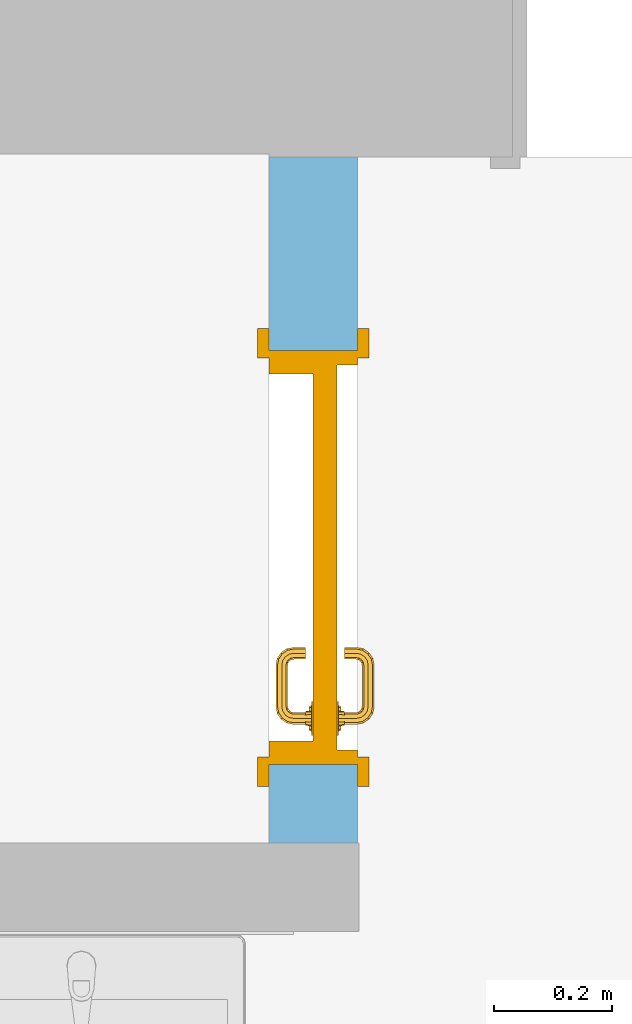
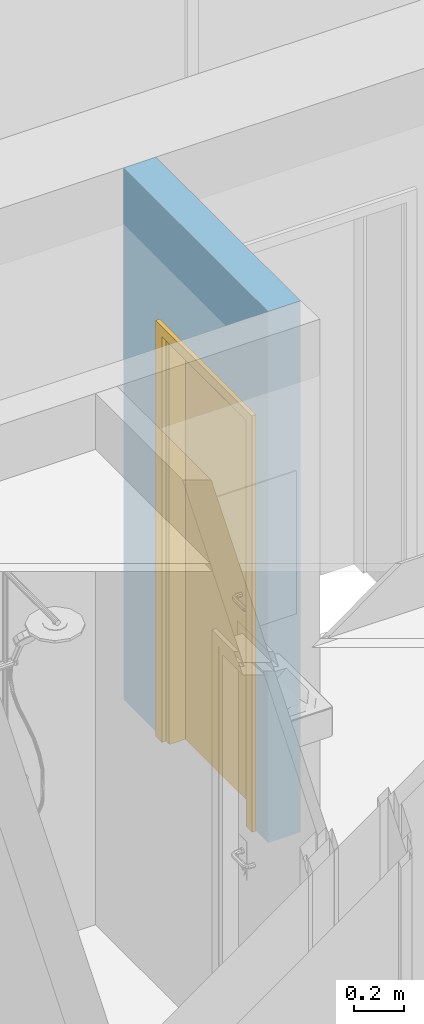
# One storey, part 51 of 127: 1 door, 1 opening, plus 1 element that does not belong to this part.
"""IFC2X3 building model written with IfcOpenShell, lengths in millimetres."""

from ifc_helpers import new_model, entity, si_unit, converted_unit, derived_unit, money_unit, direction, frame, origin_with_axes, origin_2d_with_axis, place, context, subcontext, project, spatial, polyline, rectangle, outline, extrude, open_shell, faceted_brep, surface_model, material, layer, layer_set, layer_usage, type_object, element, fill, save


model = new_model("IFC2X3")

# Units and contexts
model_context = context("Model", 3, precision=1e-05, world=origin_with_axes(), true_north=direction((0.0, 1.0)))
body_context = subcontext(model_context, "Body", "Model", "MODEL_VIEW")
ifc_project = project(units=[si_unit("LENGTHUNIT", "METRE", prefix="MILLI"), si_unit("AREAUNIT", "SQUARE_METRE"), si_unit("VOLUMEUNIT", "CUBIC_METRE"), converted_unit("PLANEANGLEUNIT", "DEGREE", entity("IfcPlaneAngleMeasure", 0.0174532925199), si_unit("PLANEANGLEUNIT", "RADIAN"), dimensions=[0, 0, 0, 0, 0, 0, 0]), si_unit("SOLIDANGLEUNIT", "STERADIAN"), money_unit("EUR"), converted_unit("TIMEUNIT", "Year", entity("IfcTimeMeasure", 31556926.0), si_unit("TIMEUNIT", "SECOND"), dimensions=[0, 0, 1, 0, 0, 0, 0]), si_unit("MASSUNIT", "GRAM", prefix="KILO"), si_unit("THERMODYNAMICTEMPERATUREUNIT", "DEGREE_CELSIUS"), si_unit("LUMINOUSINTENSITYUNIT", "LUMEN"), si_unit("ENERGYUNIT", "JOULE", prefix="MEGA"), derived_unit("THERMALCONDUCTANCEUNIT", [(si_unit("POWERUNIT", "WATT"), 1), (si_unit("LENGTHUNIT", "METRE"), -1), (si_unit("THERMODYNAMICTEMPERATUREUNIT", "KELVIN"), -1)]), derived_unit("SPECIFICHEATCAPACITYUNIT", [(si_unit("ENERGYUNIT", "JOULE"), 1), (si_unit("MASSUNIT", "GRAM", prefix="KILO"), -1), (si_unit("THERMODYNAMICTEMPERATUREUNIT", "KELVIN"), -1)]), derived_unit("MASSDENSITYUNIT", [(si_unit("MASSUNIT", "GRAM", prefix="KILO"), 1), (si_unit("VOLUMEUNIT", "CUBIC_METRE"), -1)])], contexts=[model_context])

# Site, building, storey
site_placement = place(None, origin_with_axes())
site = spatial("IfcSite", under=ifc_project, at=site_placement, Name="Site", CompositionType="ELEMENT")
building_placement = place(site_placement, origin_with_axes())
building = spatial("IfcBuilding", under=site, at=building_placement, Name="Building", CompositionType="ELEMENT")
storey_placement = place(building_placement, origin_with_axes())
storey = spatial("IfcBuildingStorey", under=building, at=storey_placement, Name="1 KORRUS", CompositionType="ELEMENT", Elevation=0.0)

# Wall, opening, door
ifc_material = material(Name="Kivi -Ol.Olev Konstruktsioon")
ifc_layer = layer(ifc_material, 150.0, ventilated="UNKNOWN")
ifc_layer_set = layer_set([ifc_layer], Name="ol.olev ss 150")
ifc_layer_usage = layer_usage(ifc_layer_set, "AXIS2", "POSITIVE", 0.0)
wall_type = type_object("IfcWallType", Name="SW - 036", PredefinedType="NOTDEFINED")
wall_placement = place(storey_placement, frame((70884.6509864, 41003.0649281, 0.0), z_axis=(0.0, 0.0, 1.0), x_axis=(0.0, -1.0, 0.0)))
wall = element("IfcWallStandardCase", 1, at=wall_placement, inside=storey, type_object=wall_type, material=ifc_layer_usage, Name="ol.olev ss 150", context=body_context, shape_type="SweptSolid", body=[
    extrude(outline(polyline([(420.0, 0.0), (1579.00000261, 0.0), (1579.00000261, 150.0), (420.0, 150.0), (420.0, 0.0)])), origin_with_axes(), (0.0, 0.0, 1.0), 2600.0),
])
opening_placement = place(wall_placement, frame((1096.64321716, 0.0, 0.0), z_axis=(0.0, 0.0, 1.0), x_axis=(1.0, 0.0, 0.0)))
opening = element("IfcOpeningElement", 2, at=opening_placement, cuts=wall, Name="Siseuks * Door 22", context=body_context, shape_type="SweptSolid", body=[
    extrude(rectangle(XDim=700.000000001, YDim=2000.0, at=origin_2d_with_axis()), frame((0.0, 150.0, 1000.0), z_axis=(0.0, 1.0, 0.0), x_axis=(-1.0, 0.0, 0.0)), (0.0, 0.0, -1.0), 450.0),
    extrude(rectangle(XDim=773.999999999, YDim=2037.0, at=origin_2d_with_axis()), frame((0.0, 150.0, 1018.5), z_axis=(0.0, 1.0, 0.0), x_axis=(-1.0, 0.0, 0.0)), (0.0, 0.0, 1.0), 150.0),
    extrude(rectangle(XDim=773.999999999, YDim=2037.0, at=origin_2d_with_axis()), frame((0.0, 0.0, 1018.5), z_axis=(0.0, -1.0, 0.0), x_axis=(-1.0, 0.0, 0.0)), (0.0, 0.0, 1.0), 150.0),
])
door_style = type_object("IfcDoorStyle", Name="SU-B126A   700×2\xa0000", ConstructionType="NOTDEFINED", OperationType="SINGLE_SWING_LEFT", ParameterTakesPrecedence=False, Sizeable=False)
door_placement = place(opening_placement, frame((-350.0, 0.0, 0.0), z_axis=(0.0, 0.0, 1.0), x_axis=(1.0, 0.0, 0.0)))
door = element("IfcDoor", 3, at=door_placement, inside=storey, type_object=door_style, Name="Siseuks * Door 22", OverallHeight=2000.0, OverallWidth=700.0, context=body_context, shape_type="SurfaceModel", body=[
    faceted_brep([(700.000000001, 115.0, 0.0), (675.0, 115.0, 0.0), (675.0, 150.0, 0.0), (700.000000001, 150.0, 0.0), (700.000000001, 115.0, 2000.0), (675.0, 115.0, 1975.0), (675.0, 150.0, 1975.0), (700.000000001, 150.0, 2000.0)], [[[0, 1, 2, 3]], [[0, 4, 5, 1]], [[1, 5, 6, 2]], [[3, 2, 6, 7]], [[4, 0, 3, 7]], [[5, 4, 7, 6]]]),
    faceted_brep([(0.0, 115.0, 2000.0), (25.0000000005, 115.0, 1975.0), (25.0000000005, 150.0, 1975.0), (0.0, 150.0, 2000.0), (0.0, 115.0, 0.0), (25.0000000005, 115.0, 0.0), (25.0000000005, 150.0, 0.0), (0.0, 150.0, 0.0)], [[[0, 1, 2, 3]], [[0, 4, 5, 1]], [[1, 5, 6, 2]], [[3, 2, 6, 7]], [[4, 0, 3, 7]], [[5, 4, 7, 6]]]),
    faceted_brep([(675.0, 115.0, 1975.0), (25.0000000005, 115.0, 1975.0), (25.0000000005, 150.0, 1975.0), (675.0, 150.0, 1975.0), (700.000000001, 115.0, 2000.0), (0.0, 115.0, 2000.0), (0.0, 150.0, 2000.0), (700.000000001, 150.0, 2000.0)], [[[0, 1, 2, 3]], [[0, 4, 5, 1]], [[1, 5, 6, 2]], [[3, 2, 6, 7]], [[4, 0, 3, 7]], [[5, 4, 7, 6]]]),
    faceted_brep([(737.0, 169.0, 0.0), (737.0, 150.0, 0.0), (687.000000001, 150.0, 0.0), (687.000000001, 169.0, 0.0), (737.0, 169.0, 2037.0), (737.0, 150.0, 2037.0), (687.000000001, 150.0, 1987.0), (687.000000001, 169.0, 1987.0)], [[[0, 1, 2, 3]], [[4, 5, 1, 0]], [[1, 5, 6, 2]], [[3, 2, 6, 7]], [[0, 3, 7, 4]], [[7, 6, 5, 4]]]),
    faceted_brep([(-36.9999999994, 169.0, 2037.0), (-36.9999999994, 150.0, 2037.0), (12.9999999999, 150.0, 1987.0), (12.9999999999, 169.0, 1987.0), (-36.9999999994, 169.0, 0.0), (-36.9999999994, 150.0, 0.0), (12.9999999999, 150.0, 0.0), (12.9999999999, 169.0, 0.0)], [[[0, 1, 2, 3]], [[4, 5, 1, 0]], [[1, 5, 6, 2]], [[3, 2, 6, 7]], [[0, 3, 7, 4]], [[7, 6, 5, 4]]]),
    faceted_brep([(737.0, 169.0, 2037.0), (737.0, 150.0, 2037.0), (687.000000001, 150.0, 1987.0), (687.000000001, 169.0, 1987.0), (-36.9999999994, 169.0, 2037.0), (-36.9999999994, 150.0, 2037.0), (12.9999999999, 150.0, 1987.0), (12.9999999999, 169.0, 1987.0)], [[[0, 1, 2, 3]], [[4, 5, 1, 0]], [[1, 5, 6, 2]], [[3, 2, 6, 7]], [[0, 3, 7, 4]], [[7, 6, 5, 4]]]),
    faceted_brep([(737.0, -19.0, 0.0), (687.000000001, -19.0, 0.0), (687.000000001, 0.0, 0.0), (737.0, 0.0, 0.0), (737.0, -19.0, 2037.0), (687.000000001, -19.0, 1987.0), (687.000000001, 0.0, 1987.0), (737.0, 0.0, 2037.0)], [[[0, 1, 2, 3]], [[0, 4, 5, 1]], [[1, 5, 6, 2]], [[3, 2, 6, 7]], [[4, 0, 3, 7]], [[5, 4, 7, 6]]]),
    faceted_brep([(-36.9999999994, -19.0, 2037.0), (12.9999999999, -19.0, 1987.0), (12.9999999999, 0.0, 1987.0), (-36.9999999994, 0.0, 2037.0), (-36.9999999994, -19.0, 0.0), (12.9999999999, -19.0, 0.0), (12.9999999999, 0.0, 0.0), (-36.9999999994, 0.0, 0.0)], [[[0, 1, 2, 3]], [[0, 4, 5, 1]], [[1, 5, 6, 2]], [[3, 2, 6, 7]], [[4, 0, 3, 7]], [[5, 4, 7, 6]]]),
    faceted_brep([(737.0, -19.0, 2037.0), (687.000000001, -19.0, 1987.0), (687.000000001, 0.0, 1987.0), (737.0, 0.0, 2037.0), (-36.9999999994, -19.0, 2037.0), (12.9999999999, -19.0, 1987.0), (12.9999999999, 0.0, 1987.0), (-36.9999999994, 0.0, 2037.0)], [[[0, 1, 2, 3]], [[0, 4, 5, 1]], [[1, 5, 6, 2]], [[3, 2, 6, 7]], [[4, 0, 3, 7]], [[5, 4, 7, 6]]]),
    faceted_brep([(660.000000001, 75.0, 0.0), (660.000000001, 0.0, 0.0), (660.000000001, 0.0, 1960.0), (660.000000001, 75.0, 1960.0), (672.0, 75.0, 0.0), (672.0, 115.0, 0.0), (700.000000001, 115.0, 0.0), (700.000000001, 0.0, 0.0), (700.000000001, 0.0, 1960.0), (672.0, 75.0, 1960.0), (700.000000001, 115.0, 1960.0), (672.0, 115.0, 1960.0)], [[[0, 1, 2, 3]], [[4, 5, 6, 7, 1, 0]], [[1, 7, 8, 2]], [[9, 3, 2, 8, 10, 11]], [[9, 4, 0, 3]], [[11, 5, 4, 9]], [[11, 10, 6, 5]], [[6, 10, 8, 7]]]),
    faceted_brep([(28.0000000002, 75.0, 1960.0), (28.0000000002, 115.0, 1960.0), (0.0, 115.0, 1960.0), (0.0, 0.0, 1960.0), (40.0, 0.0, 1960.0), (40.0, 75.0, 1960.0), (28.0000000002, 75.0, 0.0), (28.0000000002, 115.0, 0.0), (0.0, 115.0, 0.0), (0.0, 0.0, 0.0), (40.0, 0.0, 0.0), (40.0, 75.0, 0.0)], [[[0, 1, 2, 3, 4, 5]], [[0, 6, 7, 1]], [[7, 8, 2, 1]], [[2, 8, 9, 3]], [[3, 9, 10, 4]], [[5, 4, 10, 11]], [[5, 11, 6, 0]], [[6, 11, 10, 9, 8, 7]]]),
    faceted_brep([(672.0, 115.0, 1972.0), (28.0000000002, 115.0, 1972.0), (28.0000000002, 115.0, 1960.0), (0.0, 115.0, 1960.0), (0.0, 115.0, 2000.0), (700.000000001, 115.0, 2000.0), (700.000000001, 115.0, 1960.0), (672.0, 115.0, 1960.0), (672.0, 75.0, 1972.0), (28.0000000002, 75.0, 1972.0), (28.0000000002, 75.0, 1960.0), (40.0, 75.0, 1960.0), (40.0, 0.0, 1960.0), (0.0, 0.0, 1960.0), (0.0, 0.0, 2000.0), (700.000000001, 0.0, 2000.0), (700.000000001, 0.0, 1960.0), (672.0, 75.0, 1960.0), (660.000000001, 0.0, 1960.0), (660.000000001, 75.0, 1960.0)], [[[0, 1, 2, 3, 4, 5, 6, 7]], [[0, 8, 9, 1]], [[1, 9, 10, 2]], [[10, 11, 12, 13, 3, 2]], [[4, 3, 13, 14]], [[5, 4, 14, 15]], [[6, 5, 15, 16]], [[17, 7, 6, 16, 18, 19]], [[7, 17, 8, 0]], [[10, 9, 8, 17, 19, 11]], [[19, 18, 12, 11]], [[12, 18, 16, 15, 14, 13]]]),
    faceted_brep([(650.500000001, 75.0, 1060.0), (593.5, 75.0, 1060.0), (593.5, 72.0, 1060.0), (650.500000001, 72.0, 1060.0), (650.500000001, 75.0, 870.0), (593.5, 75.0, 870.0), (593.5, 72.0, 870.0), (650.500000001, 72.0, 870.0)], [[[0, 1, 2, 3]], [[0, 4, 5, 1]], [[1, 5, 6, 2]], [[3, 2, 6, 7]], [[4, 0, 3, 7]], [[5, 4, 7, 6]]]),
    surface_model("IfcShellBasedSurfaceModel", [(612.0, 62.0, 1000.0), (614.928932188, 62.0, 992.928932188), (614.928932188, 42.696439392, 992.928932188), (612.0, 42.9849140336, 1000.0), (622.0, 62.0, 990.0), (622.0, 42.0, 990.0), (613.816790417, 37.1053251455, 992.928932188), (611.057796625, 38.2481377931, 1000.0), (614.928932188, 62.0, 1007.07106781), (614.928932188, 42.696439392, 1007.07106781), (629.071067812, 62.0, 992.928932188), (629.071067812, 41.303560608, 992.928932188), (620.477590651, 34.3463313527, 990.0), (611.044179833, 32.9558201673, 992.928932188), (608.932537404, 35.0674625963, 1000.0), (613.816790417, 37.1053251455, 1007.07106781), (622.0, 62.0, 1010.0), (622.0, 42.0, 1010.0), (632.000000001, 62.0, 1000.0), (632.000000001, 41.0150859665, 1000.0), (627.138390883, 31.5873375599, 992.928932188), (616.142135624, 27.8578643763, 990.0), (606.894674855, 30.1832095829, 992.928932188), (605.751862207, 32.9422033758, 1000.0), (611.044179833, 32.9558201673, 1007.07106781), (620.477590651, 34.3463313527, 1010.0), (629.071067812, 62.0, 1007.07106781), (629.071067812, 41.303560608, 1007.07106781), (629.897384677, 30.4445249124, 1000.0), (621.240091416, 22.7599085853, 992.928932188), (609.653668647, 23.5224093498, 990.0), (601.303560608, 29.0710678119, 992.928932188), (601.015085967, 32.0, 1000.0), (606.894674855, 30.1832095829, 1007.07106781), (616.142135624, 27.8578643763, 1010.0), (627.138390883, 31.5873375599, 1007.07106781), (623.351733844, 20.6482661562, 1000.0), (612.412662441, 16.8616091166, 992.928932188), (602.000000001, 22.0, 990.0), (532.696439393, 29.0710678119, 992.928932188), (532.984914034, 32.0, 1000.0), (601.303560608, 29.0710678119, 1007.07106781), (609.653668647, 23.5224093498, 1010.0), (621.240091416, 22.7599085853, 1007.07106781), (613.555475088, 14.1026153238, 1000.0), (602.696439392, 14.9289321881, 992.928932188), (532.0, 22.0, 990.0), (527.105325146, 30.1832095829, 992.928932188), (528.248137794, 32.9422033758, 1000.0), (532.696439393, 29.0710678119, 1007.07106781), (602.000000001, 22.0, 1010.0), (612.412662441, 16.8616091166, 1007.07106781), (602.984914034, 12.0000000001, 1000.0), (531.303560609, 14.9289321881, 992.928932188), (524.346331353, 23.5224093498, 990.0), (522.955820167, 32.9558201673, 992.928932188), (525.067462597, 35.0674625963, 1000.0), (527.105325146, 30.1832095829, 1007.07106781), (532.0, 22.0, 1010.0), (602.696439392, 14.9289321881, 1007.07106781), (531.015085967, 12.0000000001, 1000.0), (521.58733756, 16.8616091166, 992.928932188), (517.857864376, 27.8578643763, 990.0), (520.183209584, 37.1053251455, 992.928932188), (522.942203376, 38.2481377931, 1000.0), (522.955820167, 32.9558201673, 1007.07106781), (524.346331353, 23.5224093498, 1010.0), (531.303560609, 14.9289321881, 1007.07106781), (520.444524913, 14.1026153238, 1000.0), (512.759908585, 22.7599085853, 992.928932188), (513.52240935, 34.3463313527, 990.0), (519.071067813, 42.696439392, 992.928932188), (522.0, 42.9849140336, 1000.0), (520.183209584, 37.1053251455, 1007.07106781), (517.857864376, 27.8578643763, 1010.0), (521.58733756, 16.8616091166, 1007.07106781), (510.648266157, 20.6482661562, 1000.0), (506.861609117, 31.5873375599, 992.928932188), (512.000000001, 42.0, 990.0), (519.071067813, 62.0, 992.928932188), (522.0, 62.0, 1000.0), (519.071067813, 42.696439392, 1007.07106781), (513.52240935, 34.3463313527, 1010.0), (512.759908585, 22.7599085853, 1007.07106781), (504.102615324, 30.4445249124, 1000.0), (504.928932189, 41.303560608, 992.928932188), (512.000000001, 62.0, 990.0), (504.928932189, 62.0, 992.928932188), (502.0, 62.0, 1000.0), (504.928932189, 62.0, 1007.07106781), (512.000000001, 62.0, 1010.0), (519.071067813, 62.0, 1007.07106781), (512.000000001, 42.0, 1010.0), (506.861609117, 31.5873375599, 1007.07106781), (502.0, 41.0150859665, 1000.0), (504.928932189, 41.303560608, 1007.07106781)], [open_shell([[[0, 1, 2, 3]], [[1, 4, 5, 2]], [[3, 2, 6, 7]], [[8, 0, 3, 9]], [[4, 10, 11, 5]], [[2, 5, 12, 6]], [[7, 6, 13, 14]], [[9, 3, 7, 15]], [[16, 8, 9, 17]], [[10, 18, 19, 11]], [[5, 11, 20, 12]], [[6, 12, 21, 13]], [[14, 13, 22, 23]], [[15, 7, 14, 24]], [[17, 9, 15, 25]], [[26, 16, 17, 27]], [[18, 26, 27, 19]], [[11, 19, 28, 20]], [[12, 20, 29, 21]], [[13, 21, 30, 22]], [[23, 22, 31, 32]], [[24, 14, 23, 33]], [[25, 15, 24, 34]], [[27, 17, 25, 35]], [[19, 27, 35, 28]], [[20, 28, 36, 29]], [[21, 29, 37, 30]], [[22, 30, 38, 31]], [[32, 31, 39, 40]], [[33, 23, 32, 41]], [[34, 24, 33, 42]], [[35, 25, 34, 43]], [[28, 35, 43, 36]], [[29, 36, 44, 37]], [[30, 37, 45, 38]], [[31, 38, 46, 39]], [[40, 39, 47, 48]], [[41, 32, 40, 49]], [[42, 33, 41, 50]], [[43, 34, 42, 51]], [[36, 43, 51, 44]], [[37, 44, 52, 45]], [[38, 45, 53, 46]], [[39, 46, 54, 47]], [[48, 47, 55, 56]], [[49, 40, 48, 57]], [[50, 41, 49, 58]], [[51, 42, 50, 59]], [[44, 51, 59, 52]], [[45, 52, 60, 53]], [[46, 53, 61, 54]], [[47, 54, 62, 55]], [[56, 55, 63, 64]], [[57, 48, 56, 65]], [[58, 49, 57, 66]], [[59, 50, 58, 67]], [[52, 59, 67, 60]], [[53, 60, 68, 61]], [[54, 61, 69, 62]], [[55, 62, 70, 63]], [[64, 63, 71, 72]], [[65, 56, 64, 73]], [[66, 57, 65, 74]], [[67, 58, 66, 75]], [[60, 67, 75, 68]], [[61, 68, 76, 69]], [[62, 69, 77, 70]], [[63, 70, 78, 71]], [[72, 71, 79, 80]], [[73, 64, 72, 81]], [[74, 65, 73, 82]], [[75, 66, 74, 83]], [[68, 75, 83, 76]], [[69, 76, 84, 77]], [[70, 77, 85, 78]], [[71, 78, 86, 79]], [[80, 79, 86, 87, 88, 89, 90, 91]], [[81, 72, 80, 91]], [[82, 73, 81, 92]], [[83, 74, 82, 93]], [[76, 83, 93, 84]], [[77, 84, 94, 85]], [[78, 85, 87, 86]], [[85, 94, 88, 87]], [[94, 95, 89, 88]], [[95, 92, 90, 89]], [[92, 81, 91, 90]], [[93, 82, 92, 95]], [[84, 93, 95, 94]]])]),
    faceted_brep([(611.607695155, 62.0, 994.0), (610.000000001, 62.0, 1000.0), (609.0, 72.0, 1000.0), (610.741669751, 72.0, 993.5), (616.0, 62.0, 989.607695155), (622.0, 62.0, 988.0), (628.000000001, 62.0, 989.607695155), (632.392304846, 62.0, 994.0), (634.0, 62.0, 1000.0), (632.392304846, 62.0, 1006.0), (628.000000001, 62.0, 1010.39230485), (622.0, 62.0, 1012.0), (616.0, 62.0, 1010.39230485), (611.607695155, 62.0, 1006.0), (610.741669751, 72.0, 1006.5), (615.500000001, 72.0, 1011.25833025), (622.0, 72.0, 1013.0), (628.500000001, 72.0, 1011.25833025), (633.258330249, 72.0, 1006.5), (635.0, 72.0, 1000.0), (633.258330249, 72.0, 993.5), (628.500000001, 72.0, 988.741669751), (622.0, 72.0, 987.0), (615.500000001, 72.0, 988.741669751)], [[[0, 1, 2, 3]], [[1, 0, 4, 5, 6, 7, 8, 9, 10, 11, 12, 13]], [[1, 13, 14, 2]], [[2, 14, 15, 16, 17, 18, 19, 20, 21, 22, 23, 3]], [[4, 0, 3, 23]], [[5, 4, 23, 22]], [[6, 5, 22, 21]], [[7, 6, 21, 20]], [[8, 7, 20, 19]], [[9, 8, 19, 18]], [[10, 9, 18, 17]], [[11, 10, 17, 16]], [[12, 11, 16, 15]], [[13, 12, 15, 14]]]),
    faceted_brep([(604.679491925, 68.0, 895.0), (602.000000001, 68.0, 905.0), (600.0, 72.0, 905.0), (602.947441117, 72.0, 894.0), (612.0, 68.0, 887.679491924), (622.0, 68.0, 885.0), (632.000000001, 68.0, 887.679491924), (639.320508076, 68.0, 895.0), (642.000000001, 68.0, 905.0), (639.320508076, 68.0, 915.0), (632.000000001, 68.0, 922.320508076), (622.0, 68.0, 925.0), (612.0, 68.0, 922.320508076), (604.679491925, 68.0, 915.0), (602.947441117, 72.0, 916.0), (611.000000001, 72.0, 924.052558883), (622.0, 72.0, 927.0), (633.000000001, 72.0, 924.052558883), (641.052558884, 72.0, 916.0), (644.0, 72.0, 905.0), (641.052558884, 72.0, 894.0), (633.000000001, 72.0, 885.947441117), (622.0, 72.0, 883.0), (611.000000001, 72.0, 885.947441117)], [[[0, 1, 2, 3]], [[1, 0, 4, 5, 6, 7, 8, 9, 10, 11, 12, 13]], [[1, 13, 14, 2]], [[2, 14, 15, 16, 17, 18, 19, 20, 21, 22, 23, 3]], [[4, 0, 3, 23]], [[5, 4, 23, 22]], [[6, 5, 22, 21]], [[7, 6, 21, 20]], [[8, 7, 20, 19]], [[9, 8, 19, 18]], [[10, 9, 18, 17]], [[11, 10, 17, 16]], [[12, 11, 16, 15]], [[13, 12, 15, 14]]]),
    faceted_brep([(617.050252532, 66.0, 909.050252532), (615.000000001, 66.0, 914.0), (614.0, 68.0, 914.0), (616.343145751, 68.0, 908.343145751), (622.0, 66.0, 907.0), (626.949747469, 66.0, 909.050252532), (629.000000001, 66.0, 914.0), (626.949747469, 66.0, 918.949747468), (622.0, 66.0, 921.0), (617.050252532, 66.0, 918.949747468), (616.343145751, 68.0, 919.656854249), (622.0, 68.0, 922.0), (627.65685425, 68.0, 919.656854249), (630.0, 68.0, 914.0), (627.65685425, 68.0, 908.343145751), (622.0, 68.0, 906.0)], [[[0, 1, 2, 3]], [[1, 0, 4, 5, 6, 7, 8, 9]], [[1, 9, 10, 2]], [[2, 10, 11, 12, 13, 14, 15, 3]], [[4, 0, 3, 15]], [[5, 4, 15, 14]], [[6, 5, 14, 13]], [[7, 6, 13, 12]], [[8, 7, 12, 11]], [[9, 8, 11, 10]]]),
    faceted_brep([(650.500000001, 115.0, 1060.0), (650.500000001, 118.0, 1060.0), (593.5, 118.0, 1060.0), (593.5, 115.0, 1060.0), (650.500000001, 115.0, 870.0), (650.500000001, 118.0, 870.0), (593.5, 118.0, 870.0), (593.5, 115.0, 870.0)], [[[0, 1, 2, 3]], [[4, 5, 1, 0]], [[1, 5, 6, 2]], [[3, 2, 6, 7]], [[0, 3, 7, 4]], [[7, 6, 5, 4]]]),
    surface_model("IfcShellBasedSurfaceModel", [(612.0, 128.0, 1000.0), (612.0, 147.015085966, 1000.0), (614.928932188, 147.303560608, 992.928932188), (614.928932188, 128.0, 992.928932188), (614.928932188, 128.0, 1007.07106781), (614.928932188, 147.303560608, 1007.07106781), (611.057796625, 151.751862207, 1000.0), (613.816790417, 152.894674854, 992.928932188), (622.0, 148.0, 990.0), (622.0, 128.0, 990.0), (622.0, 128.0, 1010.0), (622.0, 148.0, 1010.0), (613.816790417, 152.894674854, 1007.07106781), (608.932537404, 154.932537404, 1000.0), (611.044179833, 157.044179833, 992.928932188), (620.477590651, 155.653668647, 990.0), (629.071067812, 148.696439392, 992.928932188), (629.071067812, 128.0, 992.928932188), (629.071067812, 128.0, 1007.07106781), (629.071067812, 148.696439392, 1007.07106781), (620.477590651, 155.653668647, 1010.0), (611.044179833, 157.044179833, 1007.07106781), (605.751862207, 157.057796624, 1000.0), (606.894674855, 159.816790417, 992.928932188), (616.142135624, 162.142135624, 990.0), (627.138390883, 158.41266244, 992.928932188), (632.000000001, 148.984914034, 1000.0), (632.000000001, 128.0, 1000.0), (627.138390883, 158.41266244, 1007.07106781), (616.142135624, 162.142135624, 1010.0), (606.894674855, 159.816790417, 1007.07106781), (601.015085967, 158.0, 1000.0), (601.303560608, 160.928932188, 992.928932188), (609.653668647, 166.47759065, 990.0), (621.240091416, 167.240091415, 992.928932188), (629.897384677, 159.555475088, 1000.0), (621.240091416, 167.240091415, 1007.07106781), (609.653668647, 166.47759065, 1010.0), (601.303560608, 160.928932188, 1007.07106781), (532.984914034, 158.0, 1000.0), (532.696439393, 160.928932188, 992.928932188), (602.000000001, 168.0, 990.0), (612.412662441, 173.138390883, 992.928932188), (623.351733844, 169.351733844, 1000.0), (612.412662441, 173.138390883, 1007.07106781), (602.000000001, 168.0, 1010.0), (532.696439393, 160.928932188, 1007.07106781), (528.248137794, 157.057796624, 1000.0), (527.105325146, 159.816790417, 992.928932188), (532.0, 168.0, 990.0), (602.696439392, 175.071067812, 992.928932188), (613.555475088, 175.897384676, 1000.0), (602.696439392, 175.071067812, 1007.07106781), (532.0, 168.0, 1010.0), (527.105325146, 159.816790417, 1007.07106781), (525.067462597, 154.932537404, 1000.0), (522.955820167, 157.044179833, 992.928932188), (524.346331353, 166.47759065, 990.0), (531.303560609, 175.071067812, 992.928932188), (602.984914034, 178.0, 1000.0), (531.303560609, 175.071067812, 1007.07106781), (524.346331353, 166.47759065, 1010.0), (522.955820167, 157.044179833, 1007.07106781), (522.942203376, 151.751862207, 1000.0), (520.183209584, 152.894674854, 992.928932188), (517.857864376, 162.142135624, 990.0), (521.58733756, 173.138390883, 992.928932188), (531.015085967, 178.0, 1000.0), (521.58733756, 173.138390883, 1007.07106781), (517.857864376, 162.142135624, 1010.0), (520.183209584, 152.894674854, 1007.07106781), (522.0, 147.015085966, 1000.0), (519.071067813, 147.303560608, 992.928932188), (513.52240935, 155.653668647, 990.0), (512.759908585, 167.240091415, 992.928932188), (520.444524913, 175.897384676, 1000.0), (512.759908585, 167.240091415, 1007.07106781), (513.52240935, 155.653668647, 1010.0), (519.071067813, 147.303560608, 1007.07106781), (522.0, 128.0, 1000.0), (519.071067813, 128.0, 992.928932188), (512.000000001, 148.0, 990.0), (506.861609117, 158.41266244, 992.928932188), (510.648266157, 169.351733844, 1000.0), (506.861609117, 158.41266244, 1007.07106781), (512.000000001, 148.0, 1010.0), (519.071067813, 128.0, 1007.07106781), (512.000000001, 128.0, 1010.0), (504.928932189, 128.0, 1007.07106781), (502.0, 128.0, 1000.0), (504.928932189, 128.0, 992.928932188), (512.000000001, 128.0, 990.0), (504.928932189, 148.696439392, 992.928932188), (504.102615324, 159.555475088, 1000.0), (504.928932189, 148.696439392, 1007.07106781), (502.0, 148.984914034, 1000.0)], [open_shell([[[0, 1, 2, 3]], [[4, 5, 1, 0]], [[1, 6, 7, 2]], [[3, 2, 8, 9]], [[10, 11, 5, 4]], [[5, 12, 6, 1]], [[6, 13, 14, 7]], [[2, 7, 15, 8]], [[9, 8, 16, 17]], [[18, 19, 11, 10]], [[11, 20, 12, 5]], [[12, 21, 13, 6]], [[13, 22, 23, 14]], [[7, 14, 24, 15]], [[8, 15, 25, 16]], [[17, 16, 26, 27]], [[27, 26, 19, 18]], [[19, 28, 20, 11]], [[20, 29, 21, 12]], [[21, 30, 22, 13]], [[22, 31, 32, 23]], [[14, 23, 33, 24]], [[15, 24, 34, 25]], [[16, 25, 35, 26]], [[26, 35, 28, 19]], [[28, 36, 29, 20]], [[29, 37, 30, 21]], [[30, 38, 31, 22]], [[31, 39, 40, 32]], [[23, 32, 41, 33]], [[24, 33, 42, 34]], [[25, 34, 43, 35]], [[35, 43, 36, 28]], [[36, 44, 37, 29]], [[37, 45, 38, 30]], [[38, 46, 39, 31]], [[39, 47, 48, 40]], [[32, 40, 49, 41]], [[33, 41, 50, 42]], [[34, 42, 51, 43]], [[43, 51, 44, 36]], [[44, 52, 45, 37]], [[45, 53, 46, 38]], [[46, 54, 47, 39]], [[47, 55, 56, 48]], [[40, 48, 57, 49]], [[41, 49, 58, 50]], [[42, 50, 59, 51]], [[51, 59, 52, 44]], [[52, 60, 53, 45]], [[53, 61, 54, 46]], [[54, 62, 55, 47]], [[55, 63, 64, 56]], [[48, 56, 65, 57]], [[49, 57, 66, 58]], [[50, 58, 67, 59]], [[59, 67, 60, 52]], [[60, 68, 61, 53]], [[61, 69, 62, 54]], [[62, 70, 63, 55]], [[63, 71, 72, 64]], [[56, 64, 73, 65]], [[57, 65, 74, 66]], [[58, 66, 75, 67]], [[67, 75, 68, 60]], [[68, 76, 69, 61]], [[69, 77, 70, 62]], [[70, 78, 71, 63]], [[71, 79, 80, 72]], [[64, 72, 81, 73]], [[65, 73, 82, 74]], [[66, 74, 83, 75]], [[75, 83, 76, 68]], [[76, 84, 77, 69]], [[77, 85, 78, 70]], [[78, 86, 79, 71]], [[79, 86, 87, 88, 89, 90, 91, 80]], [[72, 80, 91, 81]], [[73, 81, 92, 82]], [[74, 82, 93, 83]], [[83, 93, 84, 76]], [[84, 94, 85, 77]], [[85, 87, 86, 78]], [[94, 88, 87, 85]], [[95, 89, 88, 94]], [[92, 90, 89, 95]], [[81, 91, 90, 92]], [[82, 92, 95, 93]], [[93, 95, 94, 84]]])]),
    faceted_brep([(611.607695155, 128.0, 994.0), (610.741669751, 118.0, 993.5), (609.0, 118.0, 1000.0), (610.000000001, 128.0, 1000.0), (616.0, 128.0, 989.607695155), (615.500000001, 118.0, 988.741669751), (622.0, 118.0, 987.0), (628.500000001, 118.0, 988.741669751), (633.258330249, 118.0, 993.5), (635.0, 118.0, 1000.0), (633.258330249, 118.0, 1006.5), (628.500000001, 118.0, 1011.25833025), (622.0, 118.0, 1013.0), (615.500000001, 118.0, 1011.25833025), (610.741669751, 118.0, 1006.5), (611.607695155, 128.0, 1006.0), (616.0, 128.0, 1010.39230485), (622.0, 128.0, 1012.0), (628.000000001, 128.0, 1010.39230485), (632.392304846, 128.0, 1006.0), (634.0, 128.0, 1000.0), (632.392304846, 128.0, 994.0), (628.000000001, 128.0, 989.607695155), (622.0, 128.0, 988.0)], [[[0, 1, 2, 3]], [[4, 5, 1, 0]], [[2, 1, 5, 6, 7, 8, 9, 10, 11, 12, 13, 14]], [[3, 2, 14, 15]], [[3, 15, 16, 17, 18, 19, 20, 21, 22, 23, 4, 0]], [[23, 6, 5, 4]], [[22, 7, 6, 23]], [[21, 8, 7, 22]], [[20, 9, 8, 21]], [[19, 10, 9, 20]], [[18, 11, 10, 19]], [[17, 12, 11, 18]], [[16, 13, 12, 17]], [[15, 14, 13, 16]]]),
    faceted_brep([(604.679491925, 122.0, 895.0), (602.947441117, 118.0, 894.0), (600.0, 118.0, 905.0), (602.000000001, 122.0, 905.0), (612.0, 122.0, 887.679491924), (611.000000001, 118.0, 885.947441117), (622.0, 118.0, 883.0), (633.000000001, 118.0, 885.947441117), (641.052558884, 118.0, 894.0), (644.0, 118.0, 905.0), (641.052558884, 118.0, 916.0), (633.000000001, 118.0, 924.052558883), (622.0, 118.0, 927.0), (611.000000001, 118.0, 924.052558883), (602.947441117, 118.0, 916.0), (604.679491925, 122.0, 915.0), (612.0, 122.0, 922.320508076), (622.0, 122.0, 925.0), (632.000000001, 122.0, 922.320508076), (639.320508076, 122.0, 915.0), (642.000000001, 122.0, 905.0), (639.320508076, 122.0, 895.0), (632.000000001, 122.0, 887.679491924), (622.0, 122.0, 885.0)], [[[0, 1, 2, 3]], [[4, 5, 1, 0]], [[2, 1, 5, 6, 7, 8, 9, 10, 11, 12, 13, 14]], [[3, 2, 14, 15]], [[3, 15, 16, 17, 18, 19, 20, 21, 22, 23, 4, 0]], [[23, 6, 5, 4]], [[22, 7, 6, 23]], [[21, 8, 7, 22]], [[20, 9, 8, 21]], [[19, 10, 9, 20]], [[18, 11, 10, 19]], [[17, 12, 11, 18]], [[16, 13, 12, 17]], [[15, 14, 13, 16]]]),
    faceted_brep([(617.050252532, 124.0, 909.050252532), (616.343145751, 122.0, 908.343145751), (614.0, 122.0, 914.0), (615.000000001, 124.0, 914.0), (622.0, 124.0, 907.0), (622.0, 122.0, 906.0), (627.65685425, 122.0, 908.343145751), (630.0, 122.0, 914.0), (627.65685425, 122.0, 919.656854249), (622.0, 122.0, 922.0), (616.343145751, 122.0, 919.656854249), (617.050252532, 124.0, 918.949747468), (622.0, 124.0, 921.0), (626.949747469, 124.0, 918.949747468), (629.000000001, 124.0, 914.0), (626.949747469, 124.0, 909.050252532)], [[[0, 1, 2, 3]], [[4, 5, 1, 0]], [[2, 1, 5, 6, 7, 8, 9, 10]], [[3, 2, 10, 11]], [[3, 11, 12, 13, 14, 15, 4, 0]], [[15, 6, 5, 4]], [[14, 7, 6, 15]], [[13, 8, 7, 14]], [[12, 9, 8, 13]], [[11, 10, 9, 12]]]),
    faceted_brep([(28.0000000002, 115.0, 0.0), (672.0, 115.0, 0.0), (672.0, 75.0, 0.0), (28.0000000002, 75.0, 0.0), (28.0000000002, 115.0, 1972.0), (672.0, 115.0, 1972.0), (672.0, 75.0, 1972.0), (28.0000000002, 75.0, 1972.0)], [[[0, 1, 2, 3]], [[0, 4, 5, 1]], [[1, 5, 6, 2]], [[3, 2, 6, 7]], [[4, 0, 3, 7]], [[5, 4, 7, 6]]]),
])
fill(opening, door)

save(model, "model.ifc")
